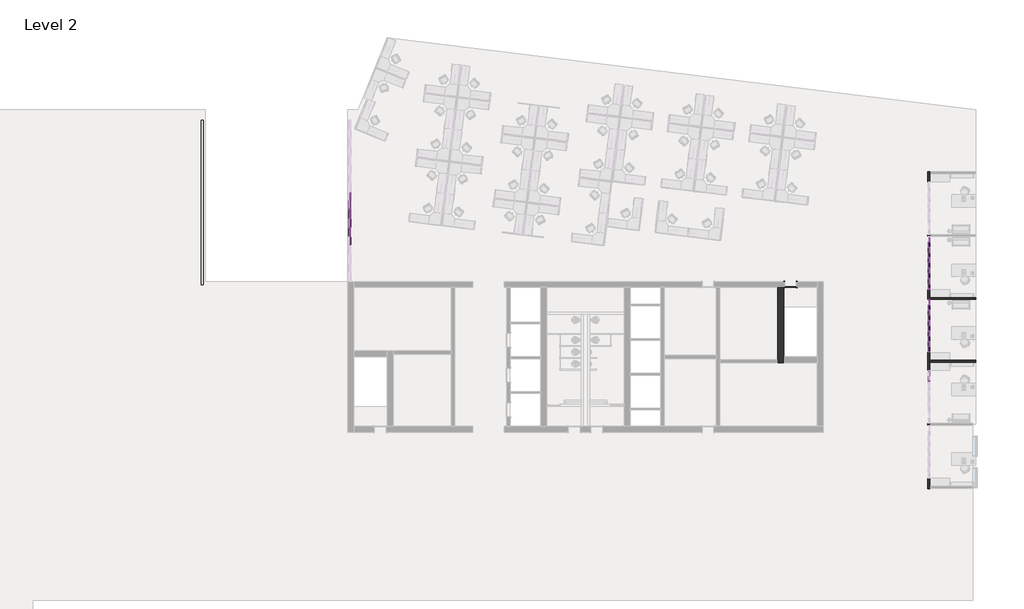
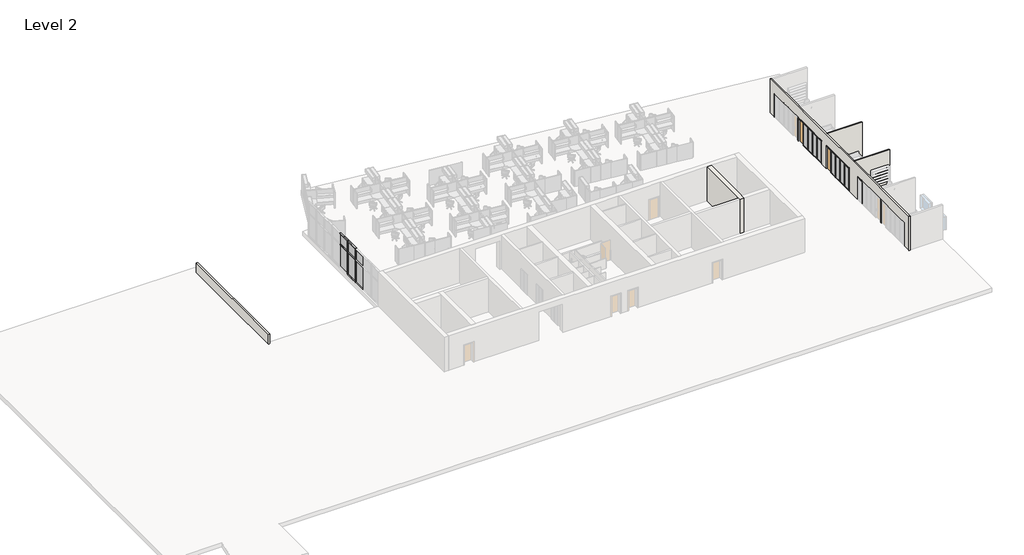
# One storey, part 3 of 7: 63 members, 24 plates, 7 walls, 3 doors.
"""IFC4 building model written with IfcOpenShell, lengths in millimetres."""

from ifc_helpers import new_model, si_unit, frame, origin, place, context, project, spatial, polyline, outline, extrude, faceted_brep, transform, mapped, element, save
from components import curtain_wall_sgl_glass_curtain_wall_sgl_glass_683140d0, door_3c99239a, member_9597caa3, member_b2bde9e6, member_7ffbafd8, member_47ea2df9, member_5507c937, member_0e55f5ff, member_ee409385, member_6d48148e, member_7899ddbe, member_c64c2408, member_866a01fa, member_13474e0d, system_panel_glazed_8093bbd9, system_panel_glazed_50fd444c, system_panel_glazed_f79f5f4b, system_panel_glazed_e5c5d69c

model = new_model("IFC4")

# Units and contexts
model_context = context("Model", 3, world=origin())
ifc_project = project(units=[si_unit("LENGTHUNIT", "METRE", prefix="MILLI")], contexts=[model_context])

# Site, building, storey
site = spatial("IfcSite", under=ifc_project)
building = spatial("IfcBuilding", under=site)
storey = spatial("IfcBuildingStorey", under=building, Name="Level 2", Elevation=3657.6)

# Doors
placement = place(None, origin())
curtain_wall_sgl_glass_curtain_wall_sgl_glass_shape = curtain_wall_sgl_glass_curtain_wall_sgl_glass_683140d0(model_context)
element("IfcDoor", 1, ObjectType="Curtain Wall Sgl Glass : Curtain Wall Sgl Glass", at=placement, inside=storey, context=model_context, shape_type="MappedRepresentation", body=[
    mapped(curtain_wall_sgl_glass_curtain_wall_sgl_glass_shape, transform((11449.2054088, -211.6299475, 3657.6), x_axis=(0.0, 1.0, 0.0), y_axis=(-1.0, 0.0, 0.0), z_axis=(0.0, 0.0, 1.0))),
])
element("IfcDoor", 2, ObjectType="Curtain Wall Sgl Glass : Curtain Wall Sgl Glass", at=placement, inside=storey, context=model_context, shape_type="MappedRepresentation", body=[
    mapped(curtain_wall_sgl_glass_curtain_wall_sgl_glass_shape, transform((11449.2054088, -5046.1342481, 3657.6), x_axis=(0.0, 1.0, 0.0), y_axis=(-1.0, 0.0, 0.0), z_axis=(0.0, 0.0, 1.0))),
])
door_shape = door_3c99239a(model_context)
element("IfcDoor", 3, ObjectType="Single-Flush : 36\" x 84\"", at=placement, inside=storey, context=model_context, shape_type="MappedRepresentation", body=[
    mapped(door_shape, transform((817.7000645, -3469.6103492, 3657.6), x_axis=(-1.0, 0.0, 0.0), y_axis=(0.0, -1.0, 0.0), z_axis=(0.0, 0.0, 1.0))),
])

# Members
member_shape = member_9597caa3(model_context)
element("IfcMember", 4, ObjectType="Rectangular Mullion : 2.5\" x 5\" rectangular", at=placement, inside=storey, context=model_context, shape_type="MappedRepresentation", body=[
    mapped(member_shape, transform((11449.2054088, -10900.0628492, 3721.1), x_axis=(0.0, 1.0, 0.0), y_axis=(1.0, 0.0, 0.0), z_axis=(0.0, 0.0, -1.0))),
])
element("IfcMember", 5, ObjectType="Rectangular Mullion : 2.5\" x 5\" rectangular", at=placement, inside=storey, context=model_context, shape_type="MappedRepresentation", body=[
    mapped(member_shape, transform((-33055.0142212, 2267.9674286, 3721.1), x_axis=(0.0, -1.0, 0.0), y_axis=(-1.0, 0.0, 0.0), z_axis=(0.0, 0.0, -1.0))),
])
element("IfcMember", 6, ObjectType="Rectangular Mullion : 2.5\" x 5\" rectangular", at=placement, inside=storey, context=model_context, shape_type="MappedRepresentation", body=[
    mapped(member_shape, transform((-33055.0142212, 890.7229841, 3721.1), x_axis=(0.0, -1.0, 0.0), y_axis=(-1.0, 0.0, 0.0), z_axis=(0.0, 0.0, -1.0))),
])
element("IfcMember", 7, ObjectType="Rectangular Mullion : 2.5\" x 5\" rectangular", at=placement, inside=storey, context=model_context, shape_type="MappedRepresentation", body=[
    mapped(member_shape, transform((11449.2054088, -612.9499475, 3721.1), x_axis=(0.0, -1.0, 0.0), y_axis=(-1.0, 0.0, 0.0), z_axis=(0.0, 0.0, -1.0))),
])
element("IfcMember", 8, ObjectType="Rectangular Mullion : 2.5\" x 5\" rectangular", at=placement, inside=storey, context=model_context, shape_type="MappedRepresentation", body=[
    mapped(member_shape, transform((11449.2054088, -1415.5899475, 3721.1), x_axis=(0.0, -1.0, 0.0), y_axis=(-1.0, 0.0, 0.0), z_axis=(0.0, 0.0, -1.0))),
])
element("IfcMember", 9, ObjectType="Rectangular Mullion : 2.5\" x 5\" rectangular", at=placement, inside=storey, context=model_context, shape_type="MappedRepresentation", body=[
    mapped(member_shape, transform((11449.2054088, -2218.2299475, 3721.1), x_axis=(0.0, -1.0, 0.0), y_axis=(-1.0, 0.0, 0.0), z_axis=(0.0, 0.0, -1.0))),
])
element("IfcMember", 10, ObjectType="Rectangular Mullion : 2.5\" x 5\" rectangular", at=placement, inside=storey, context=model_context, shape_type="MappedRepresentation", body=[
    mapped(member_shape, transform((11449.2054088, -3020.8699475, 3721.1), x_axis=(0.0, -1.0, 0.0), y_axis=(-1.0, 0.0, 0.0), z_axis=(0.0, 0.0, -1.0))),
])
element("IfcMember", 11, ObjectType="Rectangular Mullion : 2.5\" x 5\" rectangular", at=placement, inside=storey, context=model_context, shape_type="MappedRepresentation", body=[
    mapped(member_shape, transform((11449.2054088, -5447.4542481, 3721.1), x_axis=(0.0, -1.0, 0.0), y_axis=(-1.0, 0.0, 0.0), z_axis=(0.0, 0.0, -1.0))),
])
element("IfcMember", 12, ObjectType="Rectangular Mullion : 2.5\" x 5\" rectangular", at=placement, inside=storey, context=model_context, shape_type="MappedRepresentation", body=[
    mapped(member_shape, transform((11449.2054088, -6250.0942481, 3721.1), x_axis=(0.0, -1.0, 0.0), y_axis=(-1.0, 0.0, 0.0), z_axis=(0.0, 0.0, -1.0))),
])
element("IfcMember", 13, ObjectType="Rectangular Mullion : 2.5\" x 5\" rectangular", at=placement, inside=storey, context=model_context, shape_type="MappedRepresentation", body=[
    mapped(member_shape, transform((11449.2054088, -7052.7342481, 3721.1), x_axis=(0.0, -1.0, 0.0), y_axis=(-1.0, 0.0, 0.0), z_axis=(0.0, 0.0, -1.0))),
])
element("IfcMember", 14, ObjectType="Rectangular Mullion : 2.5\" x 5\" rectangular", at=placement, inside=storey, context=model_context, shape_type="MappedRepresentation", body=[
    mapped(member_shape, transform((11449.2054088, -7855.3742481, 3721.1), x_axis=(0.0, -1.0, 0.0), y_axis=(-1.0, 0.0, 0.0), z_axis=(0.0, 0.0, -1.0))),
])
member_2_shape = member_b2bde9e6(model_context)
element("IfcMember", 15, ObjectType="Rectangular Mullion : 2.5\" x 5\" rectangular", at=placement, inside=storey, context=model_context, shape_type="MappedRepresentation", body=[
    mapped(member_2_shape, transform((11449.2054088, -3855.2599475, 3721.1), x_axis=(0.0, -1.0, 0.0), y_axis=(-1.0, 0.0, 0.0), z_axis=(0.0, 0.0, -1.0))),
])
element("IfcMember", 16, ObjectType="Rectangular Mullion : 2.5\" x 5\" rectangular", at=placement, inside=storey, context=model_context, shape_type="MappedRepresentation", body=[
    mapped(member_2_shape, transform((11449.2054088, -8689.7642481, 3721.1), x_axis=(0.0, -1.0, 0.0), y_axis=(-1.0, 0.0, 0.0), z_axis=(0.0, 0.0, -1.0))),
])
member_3_shape = member_7ffbafd8(model_context)
element("IfcMember", 17, ObjectType="Rectangular Mullion : 2.5\" x 5\" rectangular", at=placement, inside=storey, context=model_context, shape_type="MappedRepresentation", body=[
    mapped(member_3_shape, transform((11449.2054088, -3855.2599475, 6197.6), x_axis=(0.0, 0.0, 1.0), y_axis=(-1.0, 0.0, 0.0), z_axis=(0.0, -1.0, 0.0))),
])
element("IfcMember", 18, ObjectType="Rectangular Mullion : 2.5\" x 5\" rectangular", at=placement, inside=storey, context=model_context, shape_type="MappedRepresentation", body=[
    mapped(member_3_shape, transform((11449.2054088, -8689.7642481, 6197.6), x_axis=(0.0, 0.0, 1.0), y_axis=(-1.0, 0.0, 0.0), z_axis=(0.0, -1.0, 0.0))),
])
element("IfcMember", 19, ObjectType="Rectangular Mullion : 2.5\" x 5\" rectangular", at=placement, inside=storey, context=model_context, shape_type="MappedRepresentation", body=[
    mapped(member_3_shape, transform((11449.2054088, -612.9499475, 6197.6), x_axis=(0.0, 0.0, 1.0), y_axis=(-1.0, 0.0, 0.0), z_axis=(0.0, -1.0, 0.0))),
])
element("IfcMember", 20, ObjectType="Rectangular Mullion : 2.5\" x 5\" rectangular", at=placement, inside=storey, context=model_context, shape_type="MappedRepresentation", body=[
    mapped(member_3_shape, transform((11449.2054088, -5447.4542481, 6197.6), x_axis=(0.0, 0.0, 1.0), y_axis=(-1.0, 0.0, 0.0), z_axis=(0.0, -1.0, 0.0))),
])
element("IfcMember", 21, ObjectType="Rectangular Mullion : 2.5\" x 5\" rectangular", at=placement, inside=storey, context=model_context, shape_type="MappedRepresentation", body=[
    mapped(member_3_shape, transform((11449.2054088, -581.1999475, 3657.6), x_axis=(0.0, 0.0, -1.0), y_axis=(-1.0, 0.0, 0.0), z_axis=(0.0, 1.0, 0.0))),
])
element("IfcMember", 22, ObjectType="Rectangular Mullion : 2.5\" x 5\" rectangular", at=placement, inside=storey, context=model_context, shape_type="MappedRepresentation", body=[
    mapped(member_3_shape, transform((11449.2054088, -5415.7042481, 3657.6), x_axis=(0.0, 0.0, -1.0), y_axis=(-1.0, 0.0, 0.0), z_axis=(0.0, 1.0, 0.0))),
])
member_4_shape = member_47ea2df9(model_context)
element("IfcMember", 23, ObjectType="Rectangular Mullion : 2.5\" x 5\" rectangular", at=placement, inside=storey, context=model_context, shape_type="MappedRepresentation", body=[
    mapped(member_4_shape, transform((11449.2054088, -1415.5899475, 6096.0), x_axis=(0.0, 0.0, 1.0), y_axis=(-1.0, 0.0, 0.0), z_axis=(0.0, -1.0, 0.0))),
])
element("IfcMember", 24, ObjectType="Rectangular Mullion : 2.5\" x 5\" rectangular", at=placement, inside=storey, context=model_context, shape_type="MappedRepresentation", body=[
    mapped(member_4_shape, transform((11449.2054088, -2218.2299475, 6096.0), x_axis=(0.0, 0.0, 1.0), y_axis=(-1.0, 0.0, 0.0), z_axis=(0.0, -1.0, 0.0))),
])
element("IfcMember", 25, ObjectType="Rectangular Mullion : 2.5\" x 5\" rectangular", at=placement, inside=storey, context=model_context, shape_type="MappedRepresentation", body=[
    mapped(member_4_shape, transform((11449.2054088, -3020.8699475, 6096.0), x_axis=(0.0, 0.0, 1.0), y_axis=(-1.0, 0.0, 0.0), z_axis=(0.0, -1.0, 0.0))),
])
element("IfcMember", 26, ObjectType="Rectangular Mullion : 2.5\" x 5\" rectangular", at=placement, inside=storey, context=model_context, shape_type="MappedRepresentation", body=[
    mapped(member_4_shape, transform((11449.2054088, -6250.0942481, 6096.0), x_axis=(0.0, 0.0, 1.0), y_axis=(-1.0, 0.0, 0.0), z_axis=(0.0, -1.0, 0.0))),
])
element("IfcMember", 27, ObjectType="Rectangular Mullion : 2.5\" x 5\" rectangular", at=placement, inside=storey, context=model_context, shape_type="MappedRepresentation", body=[
    mapped(member_4_shape, transform((11449.2054088, -7052.7342481, 6096.0), x_axis=(0.0, 0.0, 1.0), y_axis=(-1.0, 0.0, 0.0), z_axis=(0.0, -1.0, 0.0))),
])
element("IfcMember", 28, ObjectType="Rectangular Mullion : 2.5\" x 5\" rectangular", at=placement, inside=storey, context=model_context, shape_type="MappedRepresentation", body=[
    mapped(member_4_shape, transform((11449.2054088, -7855.3742481, 6096.0), x_axis=(0.0, 0.0, 1.0), y_axis=(-1.0, 0.0, 0.0), z_axis=(0.0, -1.0, 0.0))),
])
member_5_shape = member_5507c937(model_context)
element("IfcMember", 29, ObjectType="Rectangular Mullion : 2.5\" x 5\" rectangular", at=placement, inside=storey, context=model_context, shape_type="MappedRepresentation", body=[
    mapped(member_5_shape, transform((11449.2054088, -1415.5899475, 6197.6), x_axis=(0.0, 0.0, 1.0), y_axis=(-1.0, 0.0, 0.0), z_axis=(0.0, -1.0, 0.0))),
])
element("IfcMember", 30, ObjectType="Rectangular Mullion : 2.5\" x 5\" rectangular", at=placement, inside=storey, context=model_context, shape_type="MappedRepresentation", body=[
    mapped(member_5_shape, transform((11449.2054088, -2218.2299475, 6197.6), x_axis=(0.0, 0.0, 1.0), y_axis=(-1.0, 0.0, 0.0), z_axis=(0.0, -1.0, 0.0))),
])
element("IfcMember", 31, ObjectType="Rectangular Mullion : 2.5\" x 5\" rectangular", at=placement, inside=storey, context=model_context, shape_type="MappedRepresentation", body=[
    mapped(member_5_shape, transform((11449.2054088, -3020.8699475, 6197.6), x_axis=(0.0, 0.0, 1.0), y_axis=(-1.0, 0.0, 0.0), z_axis=(0.0, -1.0, 0.0))),
])
element("IfcMember", 32, ObjectType="Rectangular Mullion : 2.5\" x 5\" rectangular", at=placement, inside=storey, context=model_context, shape_type="MappedRepresentation", body=[
    mapped(member_5_shape, transform((11449.2054088, -6250.0942481, 6197.6), x_axis=(0.0, 0.0, 1.0), y_axis=(-1.0, 0.0, 0.0), z_axis=(0.0, -1.0, 0.0))),
])
element("IfcMember", 33, ObjectType="Rectangular Mullion : 2.5\" x 5\" rectangular", at=placement, inside=storey, context=model_context, shape_type="MappedRepresentation", body=[
    mapped(member_5_shape, transform((11449.2054088, -7052.7342481, 6197.6), x_axis=(0.0, 0.0, 1.0), y_axis=(-1.0, 0.0, 0.0), z_axis=(0.0, -1.0, 0.0))),
])
element("IfcMember", 34, ObjectType="Rectangular Mullion : 2.5\" x 5\" rectangular", at=placement, inside=storey, context=model_context, shape_type="MappedRepresentation", body=[
    mapped(member_5_shape, transform((11449.2054088, -7855.3742481, 6197.6), x_axis=(0.0, 0.0, 1.0), y_axis=(-1.0, 0.0, 0.0), z_axis=(0.0, -1.0, 0.0))),
])
element("IfcMember", 35, ObjectType="Rectangular Mullion : 2.5\" x 5\" rectangular", at=placement, inside=storey, context=model_context, shape_type="MappedRepresentation", body=[
    mapped(member_5_shape, transform((11449.2054088, -1415.5899475, 3657.6), x_axis=(0.0, 0.0, -1.0), y_axis=(-1.0, 0.0, 0.0), z_axis=(0.0, 1.0, 0.0))),
])
element("IfcMember", 36, ObjectType="Rectangular Mullion : 2.5\" x 5\" rectangular", at=placement, inside=storey, context=model_context, shape_type="MappedRepresentation", body=[
    mapped(member_5_shape, transform((11449.2054088, -2218.2299475, 3657.6), x_axis=(0.0, 0.0, -1.0), y_axis=(-1.0, 0.0, 0.0), z_axis=(0.0, 1.0, 0.0))),
])
element("IfcMember", 37, ObjectType="Rectangular Mullion : 2.5\" x 5\" rectangular", at=placement, inside=storey, context=model_context, shape_type="MappedRepresentation", body=[
    mapped(member_5_shape, transform((11449.2054088, -6250.0942481, 3657.6), x_axis=(0.0, 0.0, -1.0), y_axis=(-1.0, 0.0, 0.0), z_axis=(0.0, 1.0, 0.0))),
])
element("IfcMember", 38, ObjectType="Rectangular Mullion : 2.5\" x 5\" rectangular", at=placement, inside=storey, context=model_context, shape_type="MappedRepresentation", body=[
    mapped(member_5_shape, transform((11449.2054088, -7052.7342481, 3657.6), x_axis=(0.0, 0.0, -1.0), y_axis=(-1.0, 0.0, 0.0), z_axis=(0.0, 1.0, 0.0))),
])
element("IfcMember", 39, ObjectType="Rectangular Mullion : 2.5\" x 5\" rectangular", at=placement, inside=storey, context=model_context, shape_type="MappedRepresentation", body=[
    mapped(member_3_shape, transform((11449.2054088, -3020.8699475, 3657.6), x_axis=(0.0, 0.0, -1.0), y_axis=(-1.0, 0.0, 0.0), z_axis=(0.0, 1.0, 0.0))),
])
element("IfcMember", 40, ObjectType="Rectangular Mullion : 2.5\" x 5\" rectangular", at=placement, inside=storey, context=model_context, shape_type="MappedRepresentation", body=[
    mapped(member_3_shape, transform((11449.2054088, -7855.3742481, 3657.6), x_axis=(0.0, 0.0, -1.0), y_axis=(-1.0, 0.0, 0.0), z_axis=(0.0, 1.0, 0.0))),
])
member_6_shape = member_0e55f5ff(model_context)
element("IfcMember", 41, ObjectType="Rectangular Mullion : 2.5\" x 5\" rectangular", at=placement, inside=storey, context=model_context, shape_type="MappedRepresentation", body=[
    mapped(member_6_shape, transform((11449.2054088, -3791.7599475, 6096.0), x_axis=(0.0, 0.0, 1.0), y_axis=(-1.0, 0.0, 0.0), z_axis=(0.0, -1.0, 0.0))),
])
element("IfcMember", 42, ObjectType="Rectangular Mullion : 2.5\" x 5\" rectangular", at=placement, inside=storey, context=model_context, shape_type="MappedRepresentation", body=[
    mapped(member_6_shape, transform((11449.2054088, -8626.2642481, 6096.0), x_axis=(0.0, 0.0, 1.0), y_axis=(-1.0, 0.0, 0.0), z_axis=(0.0, -1.0, 0.0))),
])
element("IfcMember", 43, ObjectType="Rectangular Mullion : 2.5\" x 5\" rectangular", at=placement, inside=storey, context=model_context, shape_type="MappedRepresentation", body=[
    mapped(member_6_shape, transform((11449.2054088, -612.9499475, 6096.0), x_axis=(0.0, 0.0, 1.0), y_axis=(-1.0, 0.0, 0.0), z_axis=(0.0, -1.0, 0.0))),
])
element("IfcMember", 44, ObjectType="Rectangular Mullion : 2.5\" x 5\" rectangular", at=placement, inside=storey, context=model_context, shape_type="MappedRepresentation", body=[
    mapped(member_6_shape, transform((11449.2054088, -5447.4542481, 6096.0), x_axis=(0.0, 0.0, 1.0), y_axis=(-1.0, 0.0, 0.0), z_axis=(0.0, -1.0, 0.0))),
])
member_7_shape = member_ee409385(model_context)
element("IfcMember", 45, ObjectType="Rectangular Mullion : 2.5\" x 5\" rectangular", at=placement, inside=storey, context=model_context, shape_type="MappedRepresentation", body=[
    mapped(member_7_shape, transform((11449.2054088, -4613.0642481, 6096.0), x_axis=(0.0, 1.0, 0.0), y_axis=(-1.0, 0.0, 0.0), z_axis=(0.0, 0.0, 1.0))),
])
element("IfcMember", 46, ObjectType="Rectangular Mullion : 2.5\" x 5\" rectangular", at=placement, inside=storey, context=model_context, shape_type="MappedRepresentation", body=[
    mapped(member_6_shape, transform((11449.2054088, -10129.1728492, 6096.0), x_axis=(0.0, 0.0, 1.0), y_axis=(1.0, 0.0, 0.0), z_axis=(0.0, 1.0, 0.0))),
])
member_8_shape = member_6d48148e(model_context)
element("IfcMember", 47, ObjectType="Rectangular Mullion : 2.5\" x 5\" rectangular", at=placement, inside=storey, context=model_context, shape_type="MappedRepresentation", body=[
    mapped(member_8_shape, transform((11449.2054088, -10900.0628492, 6127.75), x_axis=(0.0, 1.0, 0.0), y_axis=(1.0, 0.0, 0.0), z_axis=(0.0, 0.0, -1.0))),
])
element("IfcMember", 48, ObjectType="Rectangular Mullion : 2.5\" x 5\" rectangular", at=placement, inside=storey, context=model_context, shape_type="MappedRepresentation", body=[
    mapped(member_8_shape, transform((11449.2054088, -612.9499475, 6127.75), x_axis=(0.0, -1.0, 0.0), y_axis=(-1.0, 0.0, 0.0), z_axis=(0.0, 0.0, -1.0))),
])
element("IfcMember", 49, ObjectType="Rectangular Mullion : 2.5\" x 5\" rectangular", at=placement, inside=storey, context=model_context, shape_type="MappedRepresentation", body=[
    mapped(member_8_shape, transform((11449.2054088, -1415.5899475, 6127.75), x_axis=(0.0, -1.0, 0.0), y_axis=(-1.0, 0.0, 0.0), z_axis=(0.0, 0.0, -1.0))),
])
element("IfcMember", 50, ObjectType="Rectangular Mullion : 2.5\" x 5\" rectangular", at=placement, inside=storey, context=model_context, shape_type="MappedRepresentation", body=[
    mapped(member_8_shape, transform((11449.2054088, -2218.2299475, 6127.75), x_axis=(0.0, -1.0, 0.0), y_axis=(-1.0, 0.0, 0.0), z_axis=(0.0, 0.0, -1.0))),
])
element("IfcMember", 51, ObjectType="Rectangular Mullion : 2.5\" x 5\" rectangular", at=placement, inside=storey, context=model_context, shape_type="MappedRepresentation", body=[
    mapped(member_8_shape, transform((11449.2054088, -3020.8699475, 6127.75), x_axis=(0.0, -1.0, 0.0), y_axis=(-1.0, 0.0, 0.0), z_axis=(0.0, 0.0, -1.0))),
])
element("IfcMember", 52, ObjectType="Rectangular Mullion : 2.5\" x 5\" rectangular", at=placement, inside=storey, context=model_context, shape_type="MappedRepresentation", body=[
    mapped(member_8_shape, transform((11449.2054088, -5447.4542481, 6127.75), x_axis=(0.0, -1.0, 0.0), y_axis=(-1.0, 0.0, 0.0), z_axis=(0.0, 0.0, -1.0))),
])
element("IfcMember", 53, ObjectType="Rectangular Mullion : 2.5\" x 5\" rectangular", at=placement, inside=storey, context=model_context, shape_type="MappedRepresentation", body=[
    mapped(member_8_shape, transform((11449.2054088, -6250.0942481, 6127.75), x_axis=(0.0, -1.0, 0.0), y_axis=(-1.0, 0.0, 0.0), z_axis=(0.0, 0.0, -1.0))),
])
element("IfcMember", 54, ObjectType="Rectangular Mullion : 2.5\" x 5\" rectangular", at=placement, inside=storey, context=model_context, shape_type="MappedRepresentation", body=[
    mapped(member_8_shape, transform((11449.2054088, -7052.7342481, 6127.75), x_axis=(0.0, -1.0, 0.0), y_axis=(-1.0, 0.0, 0.0), z_axis=(0.0, 0.0, -1.0))),
])
element("IfcMember", 55, ObjectType="Rectangular Mullion : 2.5\" x 5\" rectangular", at=placement, inside=storey, context=model_context, shape_type="MappedRepresentation", body=[
    mapped(member_8_shape, transform((11449.2054088, -7855.3742481, 6127.75), x_axis=(0.0, -1.0, 0.0), y_axis=(-1.0, 0.0, 0.0), z_axis=(0.0, 0.0, -1.0))),
])
member_9_shape = member_7899ddbe(model_context)
element("IfcMember", 56, ObjectType="Rectangular Mullion : 2.5\" x 5\" rectangular", at=placement, inside=storey, context=model_context, shape_type="MappedRepresentation", body=[
    mapped(member_9_shape, transform((11449.2054088, -3855.2599475, 6096.0), x_axis=(0.0, -1.0, 0.0), y_axis=(-1.0, 0.0, 0.0), z_axis=(0.0, 0.0, -1.0))),
])
element("IfcMember", 57, ObjectType="Rectangular Mullion : 2.5\" x 5\" rectangular", at=placement, inside=storey, context=model_context, shape_type="MappedRepresentation", body=[
    mapped(member_9_shape, transform((11449.2054088, -8689.7642481, 6096.0), x_axis=(0.0, -1.0, 0.0), y_axis=(-1.0, 0.0, 0.0), z_axis=(0.0, 0.0, -1.0))),
])
element("IfcMember", 58, ObjectType="Rectangular Mullion : 2.5\" x 5\" rectangular", at=placement, inside=storey, context=model_context, shape_type="MappedRepresentation", body=[
    mapped(member_9_shape, transform((11449.2054088, -4613.0642481, 6134.1), x_axis=(0.0, 1.0, 0.0), y_axis=(-1.0, 0.0, 0.0), z_axis=(0.0, 0.0, 1.0))),
])
member_10_shape = member_c64c2408(model_context)
element("IfcMember", 59, ObjectType="Rectangular Mullion : 2.5\" x 5\" rectangular", at=placement, inside=storey, context=model_context, shape_type="MappedRepresentation", body=[
    mapped(member_10_shape, transform((-33055.0142212, 2267.9674286, 7315.2), x_axis=(0.0, 0.0, 1.0), y_axis=(-1.0, 0.0, 0.0), z_axis=(0.0, -1.0, 0.0))),
])
element("IfcMember", 60, ObjectType="Rectangular Mullion : 2.5\" x 5\" rectangular", at=placement, inside=storey, context=model_context, shape_type="MappedRepresentation", body=[
    mapped(member_10_shape, transform((-33055.0142212, 890.7229841, 7315.2), x_axis=(0.0, 0.0, 1.0), y_axis=(-1.0, 0.0, 0.0), z_axis=(0.0, -1.0, 0.0))),
])
element("IfcMember", 61, ObjectType="Rectangular Mullion : 2.5\" x 5\" rectangular", at=placement, inside=storey, context=model_context, shape_type="MappedRepresentation", body=[
    mapped(member_10_shape, transform((-33055.0142212, 2267.9674286, 3657.6), x_axis=(0.0, 0.0, -1.0), y_axis=(-1.0, 0.0, 0.0), z_axis=(0.0, 1.0, 0.0))),
])
element("IfcMember", 62, ObjectType="Rectangular Mullion : 2.5\" x 5\" rectangular", at=placement, inside=storey, context=model_context, shape_type="MappedRepresentation", body=[
    mapped(member_10_shape, transform((-33055.0142212, 890.7229841, 3657.6), x_axis=(0.0, 0.0, -1.0), y_axis=(-1.0, 0.0, 0.0), z_axis=(0.0, 1.0, 0.0))),
])
member_11_shape = member_866a01fa(model_context)
element("IfcMember", 63, ObjectType="Rectangular Mullion : 2.5\" x 5\" rectangular", at=placement, inside=storey, context=model_context, shape_type="MappedRepresentation", body=[
    mapped(member_11_shape, transform((-33055.0142212, 2267.9674286, 6127.75), x_axis=(0.0, -1.0, 0.0), y_axis=(-1.0, 0.0, 0.0), z_axis=(0.0, 0.0, -1.0))),
])
element("IfcMember", 64, ObjectType="Rectangular Mullion : 2.5\" x 5\" rectangular", at=placement, inside=storey, context=model_context, shape_type="MappedRepresentation", body=[
    mapped(member_11_shape, transform((-33055.0142212, 890.7229841, 6127.75), x_axis=(0.0, -1.0, 0.0), y_axis=(-1.0, 0.0, 0.0), z_axis=(0.0, 0.0, -1.0))),
])
member_12_shape = member_13474e0d(model_context)
element("IfcMember", 65, ObjectType="Rectangular Mullion : 2.5\" x 5\" rectangular", at=placement, inside=storey, context=model_context, shape_type="MappedRepresentation", body=[
    mapped(member_12_shape, transform((-33055.0142212, 2267.9674286, 6096.0), x_axis=(0.0, 0.0, 1.0), y_axis=(-1.0, 0.0, 0.0), z_axis=(0.0, -1.0, 0.0))),
])
element("IfcMember", 66, ObjectType="Rectangular Mullion : 2.5\" x 5\" rectangular", at=placement, inside=storey, context=model_context, shape_type="MappedRepresentation", body=[
    mapped(member_12_shape, transform((-33055.0142212, 890.7229841, 6096.0), x_axis=(0.0, 0.0, 1.0), y_axis=(-1.0, 0.0, 0.0), z_axis=(0.0, -1.0, 0.0))),
])

# Plates
system_panel_glazed_shape = system_panel_glazed_8093bbd9(model_context)
element("IfcPlate", 67, ObjectType="System Panel : Glazed", at=placement, inside=storey, context=model_context, shape_type="MappedRepresentation", body=[
    mapped(system_panel_glazed_shape, transform((11449.2054088, -1014.2699475, 3721.1), x_axis=(0.0, -1.0, 0.0), y_axis=(1.0, 0.0, 0.0), z_axis=(0.0, 0.0, 1.0))),
])
element("IfcPlate", 68, ObjectType="System Panel : Glazed", at=placement, inside=storey, context=model_context, shape_type="MappedRepresentation", body=[
    mapped(system_panel_glazed_shape, transform((11449.2054088, -1816.9099475, 3721.1), x_axis=(0.0, -1.0, 0.0), y_axis=(1.0, 0.0, 0.0), z_axis=(0.0, 0.0, 1.0))),
])
element("IfcPlate", 69, ObjectType="System Panel : Glazed", at=placement, inside=storey, context=model_context, shape_type="MappedRepresentation", body=[
    mapped(system_panel_glazed_shape, transform((11449.2054088, -2619.5499475, 3721.1), x_axis=(0.0, -1.0, 0.0), y_axis=(1.0, 0.0, 0.0), z_axis=(0.0, 0.0, 1.0))),
])
element("IfcPlate", 70, ObjectType="System Panel : Glazed", at=placement, inside=storey, context=model_context, shape_type="MappedRepresentation", body=[
    mapped(system_panel_glazed_shape, transform((11449.2054088, -3422.1899475, 3721.1), x_axis=(0.0, -1.0, 0.0), y_axis=(1.0, 0.0, 0.0), z_axis=(0.0, 0.0, 1.0))),
])
element("IfcPlate", 71, ObjectType="System Panel : Glazed", at=placement, inside=storey, context=model_context, shape_type="MappedRepresentation", body=[
    mapped(system_panel_glazed_shape, transform((11449.2054088, -5848.7742481, 3721.1), x_axis=(0.0, -1.0, 0.0), y_axis=(1.0, 0.0, 0.0), z_axis=(0.0, 0.0, 1.0))),
])
element("IfcPlate", 72, ObjectType="System Panel : Glazed", at=placement, inside=storey, context=model_context, shape_type="MappedRepresentation", body=[
    mapped(system_panel_glazed_shape, transform((11449.2054088, -6651.4142481, 3721.1), x_axis=(0.0, -1.0, 0.0), y_axis=(1.0, 0.0, 0.0), z_axis=(0.0, 0.0, 1.0))),
])
element("IfcPlate", 73, ObjectType="System Panel : Glazed", at=placement, inside=storey, context=model_context, shape_type="MappedRepresentation", body=[
    mapped(system_panel_glazed_shape, transform((11449.2054088, -7454.0542481, 3721.1), x_axis=(0.0, -1.0, 0.0), y_axis=(1.0, 0.0, 0.0), z_axis=(0.0, 0.0, 1.0))),
])
element("IfcPlate", 74, ObjectType="System Panel : Glazed", at=placement, inside=storey, context=model_context, shape_type="MappedRepresentation", body=[
    mapped(system_panel_glazed_shape, transform((11449.2054088, -8256.6942481, 3721.1), x_axis=(0.0, -1.0, 0.0), y_axis=(1.0, 0.0, 0.0), z_axis=(0.0, 0.0, 1.0))),
])
system_panel_glazed_2_shape = system_panel_glazed_50fd444c(model_context)
element("IfcPlate", 75, ObjectType="System Panel : Glazed", at=placement, inside=storey, context=model_context, shape_type="MappedRepresentation", body=[
    mapped(system_panel_glazed_2_shape, transform((11449.2054088, -211.6299475, 6127.75), x_axis=(0.0, -1.0, 0.0), y_axis=(1.0, 0.0, 0.0), z_axis=(0.0, 0.0, 1.0))),
])
element("IfcPlate", 76, ObjectType="System Panel : Glazed", at=placement, inside=storey, context=model_context, shape_type="MappedRepresentation", body=[
    mapped(system_panel_glazed_2_shape, transform((11449.2054088, -1014.2699475, 6127.75), x_axis=(0.0, -1.0, 0.0), y_axis=(1.0, 0.0, 0.0), z_axis=(0.0, 0.0, 1.0))),
])
element("IfcPlate", 77, ObjectType="System Panel : Glazed", at=placement, inside=storey, context=model_context, shape_type="MappedRepresentation", body=[
    mapped(system_panel_glazed_2_shape, transform((11449.2054088, -1816.9099475, 6127.75), x_axis=(0.0, -1.0, 0.0), y_axis=(1.0, 0.0, 0.0), z_axis=(0.0, 0.0, 1.0))),
])
element("IfcPlate", 78, ObjectType="System Panel : Glazed", at=placement, inside=storey, context=model_context, shape_type="MappedRepresentation", body=[
    mapped(system_panel_glazed_2_shape, transform((11449.2054088, -2619.5499475, 6127.75), x_axis=(0.0, -1.0, 0.0), y_axis=(1.0, 0.0, 0.0), z_axis=(0.0, 0.0, 1.0))),
])
element("IfcPlate", 79, ObjectType="System Panel : Glazed", at=placement, inside=storey, context=model_context, shape_type="MappedRepresentation", body=[
    mapped(system_panel_glazed_2_shape, transform((11449.2054088, -3422.1899475, 6127.75), x_axis=(0.0, -1.0, 0.0), y_axis=(1.0, 0.0, 0.0), z_axis=(0.0, 0.0, 1.0))),
])
element("IfcPlate", 80, ObjectType="System Panel : Glazed", at=placement, inside=storey, context=model_context, shape_type="MappedRepresentation", body=[
    mapped(system_panel_glazed_2_shape, transform((11449.2054088, -5046.1342481, 6127.75), x_axis=(0.0, -1.0, 0.0), y_axis=(1.0, 0.0, 0.0), z_axis=(0.0, 0.0, 1.0))),
])
element("IfcPlate", 81, ObjectType="System Panel : Glazed", at=placement, inside=storey, context=model_context, shape_type="MappedRepresentation", body=[
    mapped(system_panel_glazed_2_shape, transform((11449.2054088, -5848.7742481, 6127.75), x_axis=(0.0, -1.0, 0.0), y_axis=(1.0, 0.0, 0.0), z_axis=(0.0, 0.0, 1.0))),
])
element("IfcPlate", 82, ObjectType="System Panel : Glazed", at=placement, inside=storey, context=model_context, shape_type="MappedRepresentation", body=[
    mapped(system_panel_glazed_2_shape, transform((11449.2054088, -6651.4142481, 6127.75), x_axis=(0.0, -1.0, 0.0), y_axis=(1.0, 0.0, 0.0), z_axis=(0.0, 0.0, 1.0))),
])
element("IfcPlate", 83, ObjectType="System Panel : Glazed", at=placement, inside=storey, context=model_context, shape_type="MappedRepresentation", body=[
    mapped(system_panel_glazed_2_shape, transform((11449.2054088, -7454.0542481, 6127.75), x_axis=(0.0, -1.0, 0.0), y_axis=(1.0, 0.0, 0.0), z_axis=(0.0, 0.0, 1.0))),
])
element("IfcPlate", 84, ObjectType="System Panel : Glazed", at=placement, inside=storey, context=model_context, shape_type="MappedRepresentation", body=[
    mapped(system_panel_glazed_2_shape, transform((11449.2054088, -8256.6942481, 6127.75), x_axis=(0.0, -1.0, 0.0), y_axis=(1.0, 0.0, 0.0), z_axis=(0.0, 0.0, 1.0))),
])
system_panel_glazed_3_shape = system_panel_glazed_f79f5f4b(model_context)
element("IfcPlate", 85, ObjectType="System Panel : Glazed", at=placement, inside=storey, context=model_context, shape_type="MappedRepresentation", body=[
    mapped(system_panel_glazed_3_shape, transform((-33055.0142212, 2956.5896508, 3721.1), x_axis=(0.0, -1.0, 0.0), y_axis=(1.0, 0.0, 0.0), z_axis=(0.0, 0.0, 1.0))),
])
element("IfcPlate", 86, ObjectType="System Panel : Glazed", at=placement, inside=storey, context=model_context, shape_type="MappedRepresentation", body=[
    mapped(system_panel_glazed_3_shape, transform((-33055.0142212, 1579.3452064, 3721.1), x_axis=(0.0, -1.0, 0.0), y_axis=(1.0, 0.0, 0.0), z_axis=(0.0, 0.0, 1.0))),
])
element("IfcPlate", 87, ObjectType="System Panel : Glazed", at=placement, inside=storey, context=model_context, shape_type="MappedRepresentation", body=[
    mapped(system_panel_glazed_3_shape, transform((-33055.0142212, 202.1007619, 3721.1), x_axis=(0.0, -1.0, 0.0), y_axis=(1.0, 0.0, 0.0), z_axis=(0.0, 0.0, 1.0))),
])
system_panel_glazed_4_shape = system_panel_glazed_e5c5d69c(model_context)
element("IfcPlate", 88, ObjectType="System Panel : Glazed", at=placement, inside=storey, context=model_context, shape_type="MappedRepresentation", body=[
    mapped(system_panel_glazed_4_shape, transform((-33055.0142212, 2956.5896508, 6127.75), x_axis=(0.0, -1.0, 0.0), y_axis=(1.0, 0.0, 0.0), z_axis=(0.0, 0.0, 1.0))),
])
element("IfcPlate", 89, ObjectType="System Panel : Glazed", at=placement, inside=storey, context=model_context, shape_type="MappedRepresentation", body=[
    mapped(system_panel_glazed_4_shape, transform((-33055.0142212, 1579.3452064, 6127.75), x_axis=(0.0, -1.0, 0.0), y_axis=(1.0, 0.0, 0.0), z_axis=(0.0, 0.0, 1.0))),
])
element("IfcPlate", 90, ObjectType="System Panel : Glazed", at=placement, inside=storey, context=model_context, shape_type="MappedRepresentation", body=[
    mapped(system_panel_glazed_4_shape, transform((-33055.0142212, 202.1007619, 6127.75), x_axis=(0.0, -1.0, 0.0), y_axis=(1.0, 0.0, 0.0), z_axis=(0.0, 0.0, 1.0))),
])

# Walls
element("IfcWall", 91, ObjectType="Core-shaft 18\" Concrete", at=placement, inside=storey, context=model_context, shape_type="Brep", body=[
    faceted_brep([(-172.8999355, -3698.2103492, 3657.6), (-172.8999355, -9235.4103492, 3657.6), (-172.8999355, -9489.4103492, 3657.6), (-172.8999355, -9489.4103492, 7315.2), (-172.8999355, -9235.4103492, 7315.2), (-172.8999355, -3698.2103492, 7315.2), (284.3000645, -3698.2103492, 3657.6), (284.3000645, -3698.2103492, 7315.2), (284.3000645, -9032.2103492, 7315.2), (284.3000645, -9489.4103492, 7315.2), (284.3000645, -9489.4103492, 3657.6), (284.3000645, -9032.2103492, 3657.6)], [[[0, 1, 2, 3, 4, 5]], [[6, 7, 8, 9, 10, 11]], [[2, 1, 0, 6, 11, 10]], [[5, 4, 3, 9, 8, 7]], [[3, 2, 10, 9]], [[0, 5, 7, 6]]]),
])
element("IfcWall", 92, ObjectType="Generic - 5\"", at=placement, inside=storey, context=model_context, shape_type="SweptSolid", body=[
    extrude(outline(polyline([(-44332.6142212, 9154.1896508), (-44332.6142212, -3475.9603492), (-44459.6142212, -3475.9603492), (-44459.6142212, 9154.1896508), (-44332.6142212, 9154.1896508)])), frame((0.0, 0.0, 3657.6), z_axis=(0.0, 0.0, 1.0), x_axis=(1.0, 0.0, 0.0)), (0.0, 0.0, 1.0), 1066.8),
])
element("IfcWall", 93, ObjectType="Interior - 5 1/2\" Partition (1-hr)", at=placement, inside=storey, context=model_context, shape_type="Brep", body=[
    faceted_brep([(11519.0554088, 5195.6443531, 7315.2), (11519.0554088, 5055.9443531, 7315.2), (11519.0554088, 361.1400525, 7315.2), (11519.0554088, 221.4400525, 7315.2), (11519.0554088, -4473.3642481, 7315.2), (11519.0554088, -4613.0642481, 7315.2), (11519.0554088, -9307.8685486, 7315.2), (11519.0554088, -9447.5685486, 7315.2), (11519.0554088, -14142.3728492, 7315.2), (11519.0554088, -14282.0728492, 7315.2), (11519.0554088, -18976.8771498, 7315.2), (11519.0554088, -19116.5771498, 7315.2), (11519.0554088, -19165.2228492, 7315.2), (11519.0554088, -19165.2228492, 3657.6), (11519.0554088, -19116.5771498, 3657.6), (11519.0554088, -18976.8771498, 3657.6), (11519.0554088, -18358.7728492, 3657.6), (11519.0554088, -18358.7728492, 6197.6), (11519.0554088, -14282.0728492, 6197.6), (11519.0554088, -14282.0728492, 3657.6), (11519.0554088, -14142.3728492, 3657.6), (11519.0554088, -14142.3728492, 6197.6), (11519.0554088, -10065.6728492, 6197.6), (11519.0554088, -10065.6728492, 3657.6), (11519.0554088, -9447.5685486, 3657.6), (11519.0554088, -9307.8685486, 3657.6), (11519.0554088, -8689.7642481, 3657.6), (11519.0554088, -8689.7642481, 6197.6), (11519.0554088, -4613.0642481, 6197.6), (11519.0554088, -4613.0642481, 3657.6), (11519.0554088, -4473.3642481, 3657.6), (11519.0554088, -3855.2599475, 3657.6), (11519.0554088, -3855.2599475, 6197.6), (11519.0554088, 221.4400525, 6197.6), (11519.0554088, 221.4400525, 3657.6), (11519.0554088, 361.1400525, 3657.6), (11519.0554088, 361.1400525, 6197.6), (11519.0554088, 4437.8400525, 6197.6), (11519.0554088, 4437.8400525, 3657.6), (11519.0554088, 5055.9443531, 3657.6), (11519.0554088, 5195.6443531, 3657.6), (11379.3554088, -19165.2228492, 7315.2), (11379.3554088, 5195.6443531, 7315.2), (11379.3554088, 5195.6443531, 3657.6), (11379.3554088, 4437.8400525, 3657.6), (11379.3554088, 4437.8400525, 6197.6), (11379.3554088, 361.1400525, 6197.6), (11379.3554088, 361.1400525, 3657.6), (11379.3554088, 221.4400525, 3657.6), (11379.3554088, 221.4400525, 6197.6), (11379.3554088, -3855.2599475, 6197.6), (11379.3554088, -3855.2599475, 3657.6), (11379.3554088, -4613.0642481, 3657.6), (11379.3554088, -4613.0642481, 6197.6), (11379.3554088, -8689.7642481, 6197.6), (11379.3554088, -8689.7642481, 3657.6), (11379.3554088, -10065.6728492, 3657.6), (11379.3554088, -10065.6728492, 6197.6), (11379.3554088, -14142.3728492, 6197.6), (11379.3554088, -14142.3728492, 3657.6), (11379.3554088, -14282.0728492, 3657.6), (11379.3554088, -14282.0728492, 6197.6), (11379.3554088, -18358.7728492, 6197.6), (11379.3554088, -18358.7728492, 3657.6), (11379.3554088, -19165.2228492, 3657.6)], [[[0, 1, 2, 3, 4, 5, 6, 7, 8, 9, 10, 11, 12, 13, 14, 15, 16, 17, 18, 19, 20, 21, 22, 23, 24, 25, 26, 27, 28, 29, 30, 31, 32, 33, 34, 35, 36, 37, 38, 39, 40]], [[41, 42, 43, 44, 45, 46, 47, 48, 49, 50, 51, 52, 53, 54, 55, 56, 57, 58, 59, 60, 61, 62, 63, 64]], [[13, 64, 63, 16, 15, 14]], [[47, 35, 34, 48]], [[38, 44, 43, 40, 39]], [[51, 31, 30, 29, 52]], [[55, 26, 25, 24, 23, 56]], [[59, 20, 19, 60]], [[12, 11, 10, 9, 8, 7, 6, 5, 4, 3, 2, 1, 0, 42, 41]], [[13, 12, 41, 64]], [[36, 35, 47, 46]], [[38, 37, 45, 44]], [[34, 33, 49, 48]], [[32, 31, 51, 50]], [[29, 28, 53, 52]], [[27, 26, 55, 54]], [[21, 20, 59, 58]], [[23, 22, 57, 56]], [[18, 61, 60, 19]], [[62, 17, 16, 63]], [[0, 40, 43, 42]], [[49, 33, 32, 50]], [[45, 37, 36, 46]], [[27, 54, 53, 28]], [[57, 22, 21, 58]], [[17, 62, 61, 18]]]),
])
element("IfcWall", 94, ObjectType="Interior - 5 1/2\" Partition (1-hr)", at=placement, inside=storey, context=model_context, shape_type="SweptSolid", body=[
    extrude(outline(polyline([(11519.0554088, -4473.3642481), (15043.3054088, -4473.3642481), (15043.3054088, -4613.0642481), (11519.0554088, -4613.0642481), (11519.0554088, -4473.3642481)])), frame((0.0, 0.0, 3657.6), z_axis=(0.0, 0.0, 1.0), x_axis=(1.0, 0.0, 0.0)), (0.0, 0.0, 1.0), 3657.6),
])
element("IfcWall", 95, ObjectType="Interior - 5 1/2\" Partition (1-hr)", at=placement, inside=storey, context=model_context, shape_type="SweptSolid", body=[
    extrude(outline(polyline([(11519.0554088, -9307.8685486), (15043.3054088, -9307.8685486), (15043.3054088, -9447.5685486), (11519.0554088, -9447.5685486), (11519.0554088, -9307.8685486)])), frame((0.0, 0.0, 3657.6), z_axis=(0.0, 0.0, 1.0), x_axis=(1.0, 0.0, 0.0)), (0.0, 0.0, 1.0), 3657.6),
])
element("IfcWall", 96, ObjectType="Interior - 5 1/2\" Partition (1-hr)", at=placement, inside=storey, context=model_context, shape_type="SweptSolid", body=[
    extrude(outline(polyline([(11519.0554088, -4473.3642481), (15043.3054088, -4473.3642481), (15043.3054088, -4613.0642481), (11519.0554088, -4613.0642481), (11519.0554088, -4473.3642481)])), frame((0.0, 0.0, 3657.6), z_axis=(0.0, 0.0, 1.0), x_axis=(1.0, 0.0, 0.0)), (0.0, 0.0, 1.0), 3657.6),
])
element("IfcWall", 97, ObjectType="Interior - 5 1/2\" Partition (1-hr)", at=placement, inside=storey, context=model_context, shape_type="SweptSolid", body=[
    extrude(outline(polyline([(11519.0554088, -9307.8685486), (15043.3054088, -9307.8685486), (15043.3054088, -9447.5685486), (11519.0554088, -9447.5685486), (11519.0554088, -9307.8685486)])), frame((0.0, 0.0, 3657.6), z_axis=(0.0, 0.0, 1.0), x_axis=(1.0, 0.0, 0.0)), (0.0, 0.0, 1.0), 3657.6),
])

save(model, "model.ifc")
